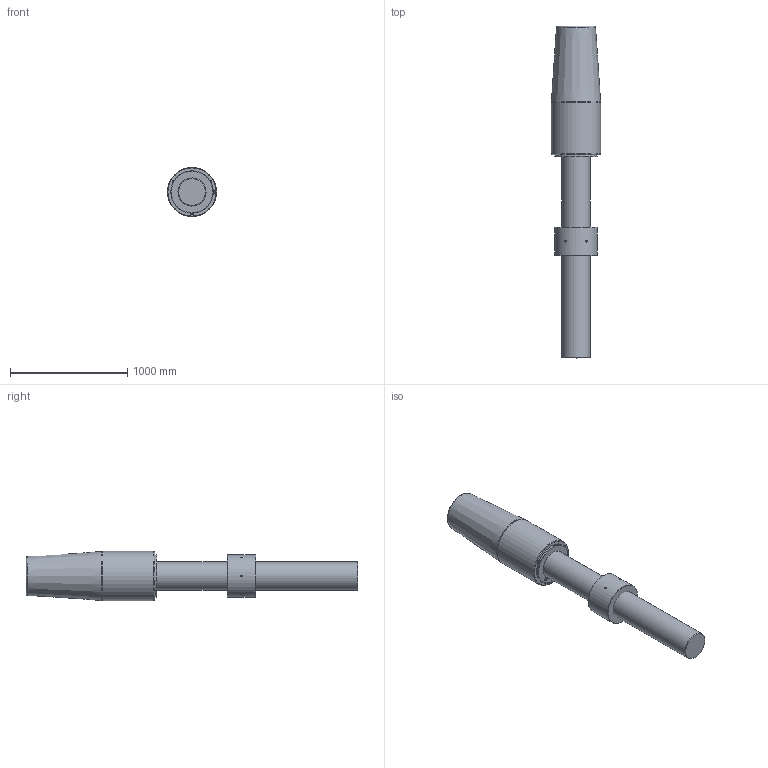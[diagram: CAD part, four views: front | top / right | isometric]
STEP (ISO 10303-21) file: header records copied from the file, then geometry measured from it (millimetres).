
FILE_DESCRIPTION(/* description */ (''),/* implementation_level */ '2;1');
FILE_NAME(/* name */ 'D:\Clienti\Redaelli (inventor)\CYB\STEP\Arrangement\CYB144 52 061 0.stp',/* time_stamp */ '2021-05-08T15:03:00+02:00',/* author */ ('fabri'),/* organization */ (''),/* preprocessor_version */ 'ST-DEVELOPER v16.13',/* originating_system */ 'Autodesk Inventor 2018',/* authorisation */ '');
FILE_SCHEMA (('AUTOMOTIVE_DESIGN { 1 0 10303 214 3 1 1 }'));
Length unit declared in the file: millimetre
Products named in the file (5): CYB144 52 061 0; RNT052 41 051 0_ROD; RNT052 41 051 0_ROD_1; CCY021-51-061-0_BUSH; CCY021-51-061-0
Assembly tree (4 placements, depth 2):
  CYB144 52 061 0
    RNT052 41 051 0_ROD
    RNT052 41 051 0_ROD_1
    CCY021-51-061-0_BUSH
    CCY021-51-061-0
Bounding box: 420 x 2828 x 420 mm (x, y, z)
Volume: 250138520.3 mm3; surface area: 4370784.5 mm2
Topology: 4 solids, 4 shells, 679 faces, 1812 edges, 1203 vertices
Faces by surface type: plane 401, bspline 240, cylinder 18, cone 16, torus 4
Full cylindrical faces by diameter (mm): 15 x6, 20.752 x3, 231.34 x2, 240 x1, 242 x1, 304 x1, 320 x1, 360 x2, 420 x1
Entity records: 22252 total; most frequent: CARTESIAN_POINT 6989, ORIENTED_EDGE 3526, DIRECTION 2211, EDGE_CURVE 1763, LINE 1229, VECTOR 1229, VERTEX_POINT 1193, EDGE_LOOP 784
